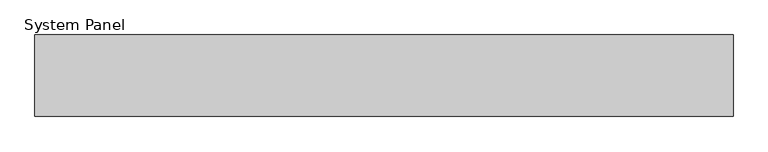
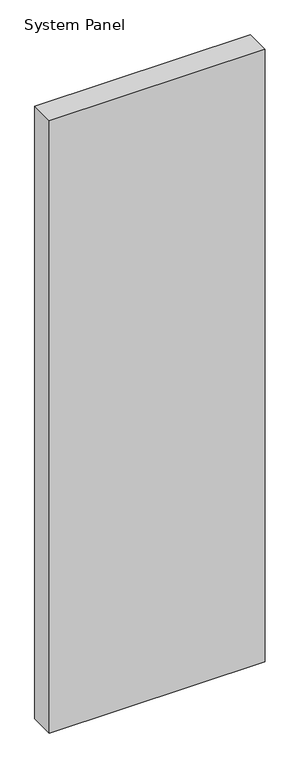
"""IFC4 building model written with IfcOpenShell, lengths in millimetres: plate geometry, System Panel : InsulWall_140mm_Plain_Surfmist."""

import ifcopenshell
import ifcopenshell.guid

model = None  # the IFC model being written
_history = None  # IfcOwnerHistory: only IFC2X3 demands one
_inside = {}  # id of a spatial element -> (the spatial element, [elements in it])
_under = {}  # id of a project, library or spatial element -> (it, [spatial elements below it])
_declared = {}  # id of a project -> (the project, [libraries it declares])
_typed = {}  # id of a type object -> (the type object, [elements of that type])
_made_of = {}  # id of a material, layer set ... -> (it, [elements and type objects made of it])


def new_model(schema):
    """Start an empty IFC model of exactly this schema.

    Asked for "IFC4X3", IfcOpenShell would pick the latest addendum, in which some entities
    have other attributes; the version numbers below select the first issue.
    IFC2X3 requires an IfcOwnerHistory on every rooted entity: one is made here for all.
    """
    global model, _history
    if schema == "IFC4X3":
        model = ifcopenshell.file(schema_version=(4, 3, 0, 0))
    else:
        model = ifcopenshell.file(schema=schema)
    _inside.clear()
    _under.clear()
    _declared.clear()
    _typed.clear()
    _made_of.clear()
    _history = None
    if model.schema == "IFC2X3":
        org = make("IfcOrganization", Name="unknown")
        user = make(
            "IfcPersonAndOrganization",
            ThePerson=make("IfcPerson", FamilyName="unknown"),
            TheOrganization=org,
        )
        app = make(
            "IfcApplication",
            ApplicationDeveloper=org,
            Version="unknown",
            ApplicationFullName="unknown",
            ApplicationIdentifier="unknown",
        )
        _history = make(
            "IfcOwnerHistory",
            OwningUser=user,
            OwningApplication=app,
            ChangeAction="ADDED",
            CreationDate=0,
        )
    return model


def make(cls, **values):
    """One entity of the class cls with the attributes given. An attribute that is None is left unset."""
    return model.create_entity(
        cls, **{name: value for name, value in values.items() if value is not None}
    )


def rooted(cls, **values):
    """An entity with a GlobalId (a new one), such as an element, a storey or a relation."""
    return make(cls, GlobalId=ifcopenshell.guid.new(), OwnerHistory=_history, **values)


def si_unit(unit_type, name, prefix=None):
    """IfcSIUnit, for example si_unit("LENGTHUNIT", "METRE", prefix="MILLI")."""
    return make("IfcSIUnit", UnitType=unit_type, Prefix=prefix, Name=name)


def assignment(units):
    """IfcUnitAssignment: the units of a project."""
    return None if units is None else make("IfcUnitAssignment", Units=units)


def point(xyz):
    """IfcCartesianPoint."""
    return None if xyz is None else make("IfcCartesianPoint", Coordinates=xyz)


def direction(xyz):
    """IfcDirection."""
    return None if xyz is None else make("IfcDirection", DirectionRatios=xyz)


def frame(location, z_axis=None, x_axis=None):
    """IfcAxis2Placement3D, a coordinate frame: its origin and axes. An axis left out is left unset."""
    return make(
        "IfcAxis2Placement3D",
        Location=point(location),
        Axis=direction(z_axis),
        RefDirection=direction(x_axis),
    )


def origin():
    """The frame at (0, 0, 0) with its axes left unset."""
    return frame((0.0, 0.0, 0.0))


def origin_with_axes():
    """The frame at (0, 0, 0) with the z axis (0, 0, 1) and the x axis (1, 0, 0) written out."""
    return frame((0.0, 0.0, 0.0), z_axis=(0.0, 0.0, 1.0), x_axis=(1.0, 0.0, 0.0))


def place(relative_to, where):
    """IfcLocalPlacement: puts the frame where relative to a parent placement (None: the world)."""
    return make(
        "IfcLocalPlacement", PlacementRelTo=relative_to, RelativePlacement=where
    )


def context(
    kind, dimensions, precision=None, world=None, true_north=None, identifier=None
):
    """IfcGeometricRepresentationContext, for example the 3D "Model" context."""
    return make(
        "IfcGeometricRepresentationContext",
        ContextIdentifier=identifier,
        ContextType=kind,
        CoordinateSpaceDimension=dimensions,
        Precision=precision,
        WorldCoordinateSystem=world,
        TrueNorth=true_north,
    )


def project(units=None, contexts=None):
    """IfcProject with its units and contexts."""
    return rooted(
        "IfcProject",
        Name="project",
        RepresentationContexts=contexts,
        UnitsInContext=assignment(units),
    )


def spatial(cls, under=None, at=None, **own):
    """A site, building, storey or space (cls), placed at a placement, below another one or the project."""
    s = rooted(cls, ObjectPlacement=at, **own)
    if under is not None:
        _under.setdefault(under.id(), (under, []))[1].append(s)
    return s


def polyline(points):
    """IfcPolyline through the points."""
    return make("IfcPolyline", Points=[point(p) for p in points])


def outline(outer, holes=None, kind="AREA"):
    """IfcArbitraryClosedProfileDef: a profile drawn as a closed curve; with holes, ...WithVoids."""
    if holes is None:
        return make("IfcArbitraryClosedProfileDef", ProfileType=kind, OuterCurve=outer)
    return make(
        "IfcArbitraryProfileDefWithVoids",
        ProfileType=kind,
        OuterCurve=outer,
        InnerCurves=holes,
    )


def extrude(swept, where, along, depth):
    """IfcExtrudedAreaSolid: the profile swept, set in the frame where, extruded along a direction by depth."""
    return make(
        "IfcExtrudedAreaSolid",
        SweptArea=swept,
        Position=where,
        ExtrudedDirection=direction(along),
        Depth=depth,
    )


def shape(context_of_items, identifier, shape_type, items):
    """IfcShapeRepresentation: the items that make up one representation, for example the "Body"."""
    return make(
        "IfcShapeRepresentation",
        ContextOfItems=context_of_items,
        RepresentationIdentifier=identifier,
        RepresentationType=shape_type,
        Items=items,
    )


def source(mapping_origin, context_of_items, identifier, shape_type, items):
    """IfcRepresentationMap: a shape defined once, which mapped items show again and again."""
    return make(
        "IfcRepresentationMap",
        MappingOrigin=mapping_origin,
        MappedRepresentation=shape(context_of_items, identifier, shape_type, items),
    )


def transform(
    local_origin,
    x_axis=None,
    y_axis=None,
    z_axis=None,
    scale=None,
    scale2=None,
    scale3=None,
    uniform=True,
):
    """IfcCartesianTransformationOperator3D, or its non-uniform kind. x_axis, y_axis, z_axis: its Axis1, 2, 3."""
    if uniform:
        return make(
            "IfcCartesianTransformationOperator3D",
            Axis1=direction(x_axis),
            Axis2=direction(y_axis),
            LocalOrigin=point(local_origin),
            Scale=scale,
            Axis3=direction(z_axis),
        )
    return make(
        "IfcCartesianTransformationOperator3DnonUniform",
        Axis1=direction(x_axis),
        Axis2=direction(y_axis),
        LocalOrigin=point(local_origin),
        Scale=scale,
        Axis3=direction(z_axis),
        Scale2=scale2,
        Scale3=scale3,
    )


def mapped(mapping_source, mapping_target):
    """IfcMappedItem: shows the shape of a source again, moved by a transform."""
    return make(
        "IfcMappedItem", MappingSource=mapping_source, MappingTarget=mapping_target
    )


def made_of(thing, what):
    """Note that an element or type object is made of a material, layer set ...; save() writes the relation."""
    if what is not None:
        _made_of.setdefault(what.id(), (what, []))[1].append(thing)
    return thing


def element(
    cls,
    number,
    at=None,
    inside=None,
    cuts=None,
    type_object=None,
    material=None,
    context=None,
    identifier="Body",
    shape_type=None,
    held_by="IfcProductDefinitionShape",
    body=None,
    shapes=None,
    **own,
):
    """One element of the class cls, such as IfcWall. Its Tag is "e" and its number.

    at: its placement. inside: the storey or other place that contains it. cuts: it is an
    opening in that element (IfcRelVoidsElement). A single representation is given by context,
    identifier, shape_type and body (its items); several are given by shapes. held_by: the class
    of the entity that holds the representations. save() writes the other relations.
    """
    e = rooted(cls, Tag="e%d" % number, ObjectPlacement=at, **own)
    if body is not None:
        shapes = [shape(context, identifier, shape_type, body)]
    if shapes is not None:
        e.Representation = make(held_by, Representations=shapes)
    if inside is not None:
        _inside.setdefault(inside.id(), (inside, []))[1].append(e)
    if cuts is not None:
        rooted(
            "IfcRelVoidsElement", RelatingBuildingElement=cuts, RelatedOpeningElement=e
        )
    if type_object is not None:
        _typed.setdefault(type_object.id(), (type_object, []))[1].append(e)
    return made_of(e, material)


def aggregate(whole, parts):
    """IfcRelAggregates: a whole, such as a stair, and the parts it consists of."""
    return rooted("IfcRelAggregates", RelatingObject=whole, RelatedObjects=parts)


def save(model, path):
    """Write the relations noted so far, then the file.

    IfcRelAggregates (storeys below a building ...), IfcRelContainedInSpatialStructure (elements
    in a storey), IfcRelDefinesByType, IfcRelAssociatesMaterial and IfcRelDeclares: one each for
    every whole, place, type object, material and project.
    """
    for whole, parts in _under.values():
        aggregate(whole, parts)
    for where, things in _inside.values():
        rooted(
            "IfcRelContainedInSpatialStructure",
            RelatedElements=things,
            RelatingStructure=where,
        )
    for kind, things in _typed.values():
        rooted("IfcRelDefinesByType", RelatedObjects=things, RelatingType=kind)
    for what, things in _made_of.values():
        rooted("IfcRelAssociatesMaterial", RelatedObjects=things, RelatingMaterial=what)
    for by, libraries in _declared.values():
        rooted("IfcRelDeclares", RelatingContext=by, RelatedDefinitions=libraries)
    model.write(path)


def system_panel_518b393b(model_context):
    return source(origin(), model_context, "Body", "SweptSolid", [
        extrude(outline(polyline([(600.0, 0.0), (-600.0, 0.0), (-600.0, 140.0), (600.0, 140.0), (600.0, 0.0)])), origin_with_axes(), (0.0, 0.0, 1.0), 3600.0),
    ])


if __name__ == "__main__":
    model = new_model("IFC4")
    model_context = context("Model", 3, world=origin())
    ifc_project = project(units=[si_unit("LENGTHUNIT", "METRE", prefix="MILLI")], contexts=[model_context])
    site = spatial("IfcSite", under=ifc_project)
    building = spatial("IfcBuilding", under=site)
    placement = place(None, origin())
    system_panel_shape = system_panel_518b393b(model_context)
    element("IfcPlate", 1, ObjectType="System Panel : InsulWall_140mm_Plain_Surfmist", at=placement, inside=building, context=model_context, shape_type="MappedRepresentation", body=[
        mapped(system_panel_shape, transform((0.0, 0.0, 0.0), x_axis=(1.0, 0.0, 0.0), y_axis=(0.0, 1.0, 0.0), z_axis=(0.0, 0.0, 1.0))),
    ])
    save(model, "model.ifc")
